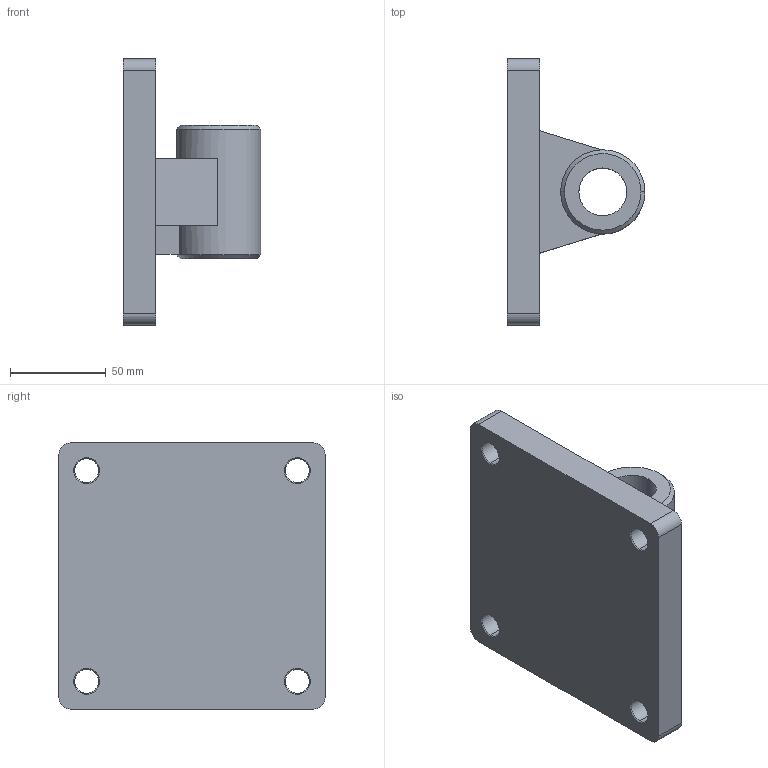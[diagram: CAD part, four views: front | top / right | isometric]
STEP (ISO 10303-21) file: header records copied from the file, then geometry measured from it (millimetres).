
FILE_DESCRIPTION (( 'STEP AP214' ), '1' );
FILE_NAME ('F-SI125CA.STEP', '2016-02-16T16:01:05', ( '' ), ( '' ), 'SwSTEP 2.0', 'SolidWorks 2016', '' );
FILE_SCHEMA (( 'AUTOMOTIVE_DESIGN' ));
Length unit declared in the file: millimetre
Products named in the file (1): F-SI125CA
Bounding box: 72 x 139 x 139 mm (x, y, z)
Volume: 424850.5 mm3; surface area: 66457.1 mm2
Topology: 1 solids, 1 shells, 72 faces, 167 edges, 102 vertices
Faces by surface type: cone 28, cylinder 24, plane 20
Entity records: 2103 total; most frequent: DIRECTION 395, CARTESIAN_POINT 342, ORIENTED_EDGE 334, EDGE_CURVE 167, AXIS2_PLACEMENT_3D 155, VERTEX_POINT 102, EDGE_LOOP 87, VECTOR 85
